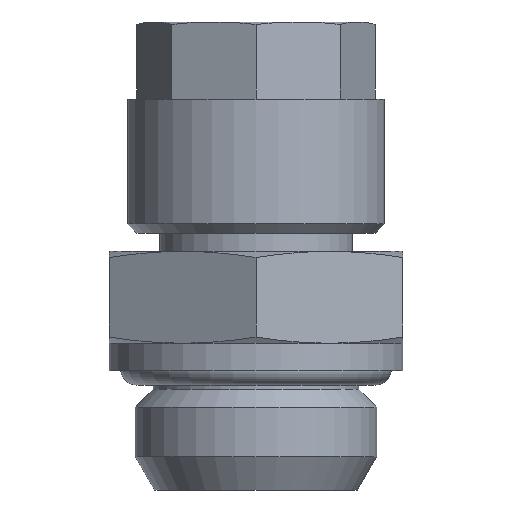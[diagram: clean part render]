
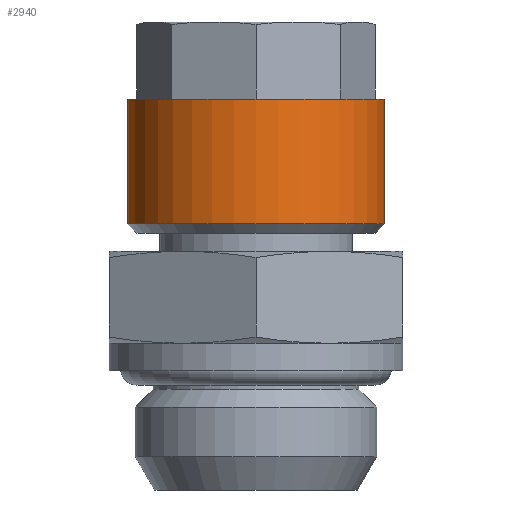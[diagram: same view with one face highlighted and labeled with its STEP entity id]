
A CAD part, front view. The second image highlights one B-rep face of the part: STEP entity #2940.
In plain terms, the highlighted cylindrical face has radius 7 mm (diameter 14 mm), a full revolution.
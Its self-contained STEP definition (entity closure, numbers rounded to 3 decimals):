
#1579=ORIENTED_EDGE('',*,*,#1836,.F.);
#1580=ORIENTED_EDGE('',*,*,#1837,.T.);
#1638=CIRCLE('',#2849,7.);
#1639=CIRCLE('',#2851,7.);
#1720=VERTEX_POINT('',#2673);
#1721=VERTEX_POINT('',#2676);
#1836=EDGE_CURVE('',#1720,#1720,#1638,.T.);
#1837=EDGE_CURVE('',#1721,#1721,#1639,.T.);
#1937=EDGE_LOOP('',(#1579));
#1938=EDGE_LOOP('',(#1580));
#2043=FACE_BOUND('',#1937,.T.);
#2044=FACE_BOUND('',#1938,.T.);
#2387=DIRECTION('',(0.,1.,0.));
#2388=DIRECTION('',(0.,0.,-7.));
#2389=DIRECTION('',(0.,1.,0.));
#2390=DIRECTION('',(1.,0.,0.));
#2391=DIRECTION('',(0.,1.,0.));
#2392=DIRECTION('',(0.,0.,7.));
#2673=CARTESIAN_POINT('',(26.989,21.895,-7.));
#2674=CARTESIAN_POINT('',(26.989,21.895,0.));
#2675=CARTESIAN_POINT('',(26.989,15.095,0.));
#2676=CARTESIAN_POINT('',(26.989,15.095,7.));
#2677=CARTESIAN_POINT('',(26.989,15.095,0.));
#2849=AXIS2_PLACEMENT_3D('',#2674,#2387,#2388);
#2850=AXIS2_PLACEMENT_3D('',#2675,#2389,#2390);
#2851=AXIS2_PLACEMENT_3D('',#2677,#2391,#2392);
#2873=CYLINDRICAL_SURFACE('',#2850,7.);
#2940=ADVANCED_FACE('',(#2043,#2044),#2873,.T.);
